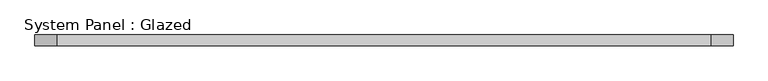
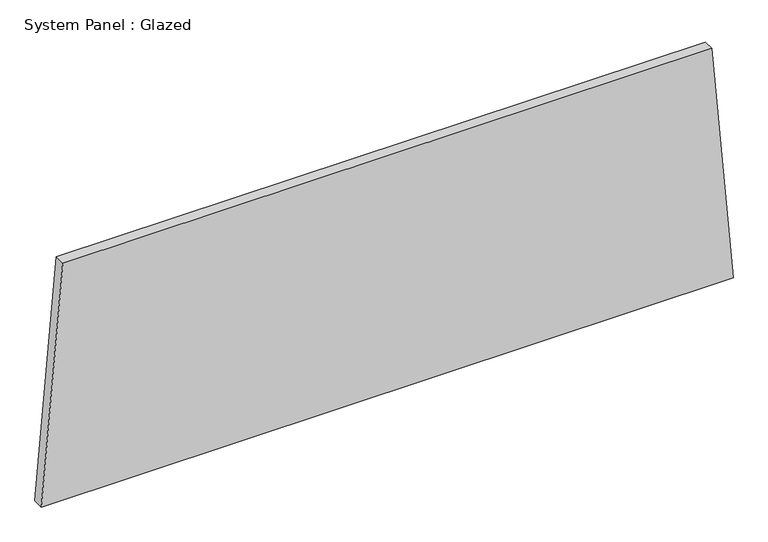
"""IFC4 building model written with IfcOpenShell, lengths in millimetres: plate geometry, System Panel : Glazed."""

from ifc_helpers import new_model, si_unit, frame, origin, place, context, project, spatial, polyline, outline, extrude, source, transform, mapped, element, save


def system_panel_glazed_d2add3f3(model_context):
    return source(origin(), model_context, "Body", "SweptSolid", [
        extrude(outline(polyline([(0.0, -804.2494485), (0.0, 804.2494485), (581.9568348, 754.1866561), (581.9568348, -754.1866561), (0.0, -804.2494485)])), frame((0.0, -44.45, 0.0), z_axis=(0.0, 1.0, 0.0), x_axis=(0.0, 0.0, 1.0)), (0.0, 0.0, 1.0), 25.4),
    ])


if __name__ == "__main__":
    model = new_model("IFC4")
    model_context = context("Model", 3, world=origin())
    ifc_project = project(units=[si_unit("LENGTHUNIT", "METRE", prefix="MILLI")], contexts=[model_context])
    site = spatial("IfcSite", under=ifc_project)
    building = spatial("IfcBuilding", under=site)
    placement = place(None, origin())
    system_panel_glazed_shape = system_panel_glazed_d2add3f3(model_context)
    element("IfcPlate", 1, ObjectType="System Panel : Glazed", at=placement, inside=building, context=model_context, shape_type="MappedRepresentation", body=[
        mapped(system_panel_glazed_shape, transform((0.0, 0.0, 0.0), x_axis=(1.0, 0.0, 0.0), y_axis=(0.0, 1.0, 0.0), z_axis=(0.0, 0.0, 1.0))),
    ])
    save(model, "model.ifc")
